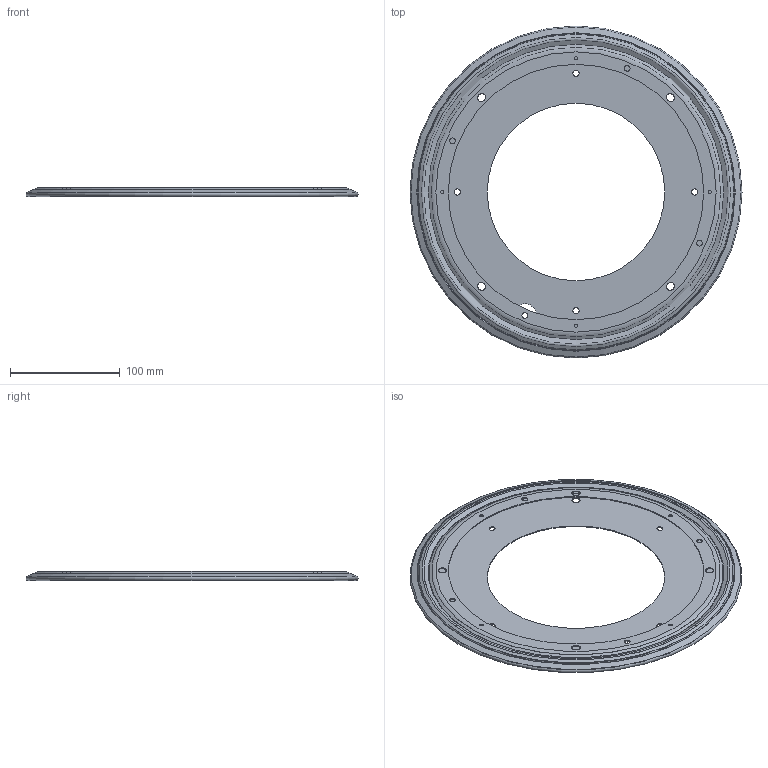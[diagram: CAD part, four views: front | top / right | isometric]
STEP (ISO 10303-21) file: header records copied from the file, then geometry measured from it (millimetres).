
FILE_DESCRIPTION(/* description */ (''),/* implementation_level */ '2;1');
FILE_NAME(/* name */ '1620-0002-0012.step',/* time_stamp */ '2026-05-12T12:00:32-05:00',/* author */ (''),/* organization */ (''),/* preprocessor_version */ 'ST-DEVELOPER v20.1',/* originating_system */ 'Autodesk Translation Framework v15.8.0.0',/* authorisation */ '');
FILE_SCHEMA (('AUTOMOTIVE_DESIGN { 1 0 10303 214 3 1 1 }'));
Length unit declared in the file: millimetre
Products named in the file (4): 1620-0002-0012; Male; Female; Balls
Assembly tree (3 placements, depth 2):
  1620-0002-0012
    Male
    Female
    Balls
Bounding box: 303 x 303 x 8.25 mm (x, y, z)
Volume: 89889.6 mm3; surface area: 200768.9 mm2
Topology: 142 solids, 142 shells, 247 faces, 691 edges, 448 vertices
Faces by surface type: sphere 140, cylinder 59, torus 22, cone 20, plane 6
Full cylindrical faces by diameter (mm): 3 x4, 7.35 x4, 19.5 x1, 162 x1, 233 x1
Entity records: 6761 total; most frequent: DIRECTION 1247, CARTESIAN_POINT 1157, ORIENTED_EDGE 822, AXIS2_PLACEMENT_3D 584, VERTEX_POINT 448, EDGE_CURVE 411, CIRCLE 330, EDGE_LOOP 293
